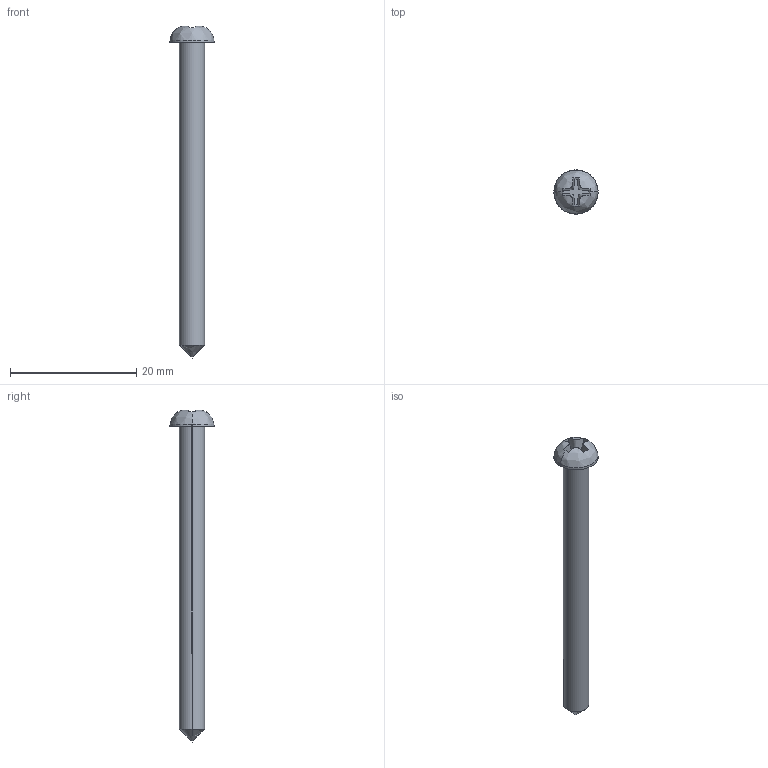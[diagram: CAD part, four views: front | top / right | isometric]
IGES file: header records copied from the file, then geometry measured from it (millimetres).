
Start section: SolidWorks IGES file using analytic representation for surfaces
Bounding box: 7 x 7 x 52.6 mm (x, y, z)
Surface area: 743.2 mm2 (no closed solid volume)
Topology: 0 solids, 0 shells, 20 faces, 270 edges, 268 vertices
Faces by surface type: bspline 14, revolution 6
